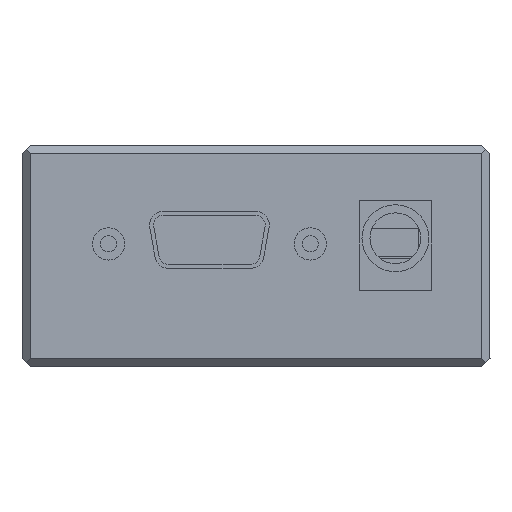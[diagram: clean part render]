
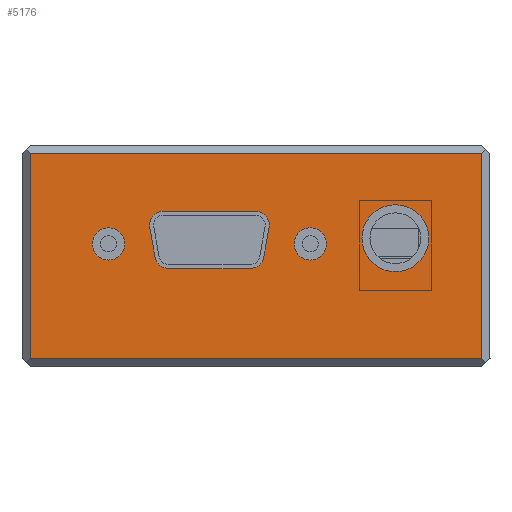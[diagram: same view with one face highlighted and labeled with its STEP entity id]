
A CAD part, left-side view. The second image highlights one B-rep face of the part: STEP entity #5176.
In plain terms, the highlighted planar face has unit normal (-1, 0, 0).
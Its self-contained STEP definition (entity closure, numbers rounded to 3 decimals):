
#138=CIRCLE('',#5546,2.);
#139=CIRCLE('',#5547,1.7);
#140=CIRCLE('',#5548,1.7);
#141=CIRCLE('',#5549,1.7);
#142=CIRCLE('',#5550,1.7);
#143=CIRCLE('',#5551,2.);
#144=CIRCLE('',#5552,4.15);
#226=FACE_BOUND('',#762,.T.);
#227=FACE_BOUND('',#763,.T.);
#228=FACE_BOUND('',#764,.T.);
#229=FACE_BOUND('',#765,.T.);
#429=FACE_OUTER_BOUND('',#761,.T.);
#761=EDGE_LOOP('',(#4200,#4201,#4202,#4203));
#762=EDGE_LOOP('',(#4204));
#763=EDGE_LOOP('',(#4205,#4206,#4207,#4208,#4209,#4210,#4211,#4212));
#764=EDGE_LOOP('',(#4213));
#765=EDGE_LOOP('',(#4214));
#1227=LINE('',#7895,#1840);
#1234=LINE('',#7908,#1847);
#1243=LINE('',#7926,#1856);
#1250=LINE('',#7939,#1863);
#1302=LINE('',#8080,#1915);
#1303=LINE('',#8084,#1916);
#1304=LINE('',#8088,#1917);
#1305=LINE('',#8091,#1918);
#1840=VECTOR('',#6462,10.);
#1847=VECTOR('',#6471,10.);
#1856=VECTOR('',#6486,10.);
#1863=VECTOR('',#6497,10.);
#1915=VECTOR('',#6597,10.);
#1916=VECTOR('',#6600,10.);
#1917=VECTOR('',#6603,10.);
#1918=VECTOR('',#6606,10.);
#2373=VERTEX_POINT('',#7892);
#2374=VERTEX_POINT('',#7894);
#2379=VERTEX_POINT('',#7906);
#2385=VERTEX_POINT('',#7924);
#2451=VERTEX_POINT('',#8074);
#2452=VERTEX_POINT('',#8076);
#2453=VERTEX_POINT('',#8077);
#2454=VERTEX_POINT('',#8079);
#2455=VERTEX_POINT('',#8081);
#2456=VERTEX_POINT('',#8083);
#2457=VERTEX_POINT('',#8085);
#2458=VERTEX_POINT('',#8087);
#2459=VERTEX_POINT('',#8089);
#2460=VERTEX_POINT('',#8092);
#2461=VERTEX_POINT('',#8094);
#2979=EDGE_CURVE('',#2373,#2374,#1227,.T.);
#2986=EDGE_CURVE('',#2379,#2373,#1234,.T.);
#2995=EDGE_CURVE('',#2385,#2379,#1243,.T.);
#3002=EDGE_CURVE('',#2374,#2385,#1250,.T.);
#3069=EDGE_CURVE('',#2451,#2451,#138,.F.);
#3070=EDGE_CURVE('',#2452,#2453,#139,.F.);
#3071=EDGE_CURVE('',#2453,#2454,#1302,.F.);
#3072=EDGE_CURVE('',#2454,#2455,#140,.F.);
#3073=EDGE_CURVE('',#2455,#2456,#1303,.F.);
#3074=EDGE_CURVE('',#2456,#2457,#141,.F.);
#3075=EDGE_CURVE('',#2457,#2458,#1304,.F.);
#3076=EDGE_CURVE('',#2458,#2459,#142,.F.);
#3077=EDGE_CURVE('',#2459,#2452,#1305,.F.);
#3078=EDGE_CURVE('',#2460,#2460,#143,.F.);
#3079=EDGE_CURVE('',#2461,#2461,#144,.F.);
#4200=ORIENTED_EDGE('',*,*,#2995,.F.);
#4201=ORIENTED_EDGE('',*,*,#3002,.F.);
#4202=ORIENTED_EDGE('',*,*,#2979,.F.);
#4203=ORIENTED_EDGE('',*,*,#2986,.F.);
#4204=ORIENTED_EDGE('',*,*,#3069,.T.);
#4205=ORIENTED_EDGE('',*,*,#3070,.T.);
#4206=ORIENTED_EDGE('',*,*,#3071,.T.);
#4207=ORIENTED_EDGE('',*,*,#3072,.T.);
#4208=ORIENTED_EDGE('',*,*,#3073,.T.);
#4209=ORIENTED_EDGE('',*,*,#3074,.T.);
#4210=ORIENTED_EDGE('',*,*,#3075,.T.);
#4211=ORIENTED_EDGE('',*,*,#3076,.T.);
#4212=ORIENTED_EDGE('',*,*,#3077,.T.);
#4213=ORIENTED_EDGE('',*,*,#3078,.T.);
#4214=ORIENTED_EDGE('',*,*,#3079,.F.);
#4888=PLANE('',#5545);
#5176=ADVANCED_FACE('',(#429,#226,#227,#228,#229),#4888,.T.);
#5545=AXIS2_PLACEMENT_3D('',#8073,#6591,#6592);
#5546=AXIS2_PLACEMENT_3D('',#8075,#6593,#6594);
#5547=AXIS2_PLACEMENT_3D('',#8078,#6595,#6596);
#5548=AXIS2_PLACEMENT_3D('',#8082,#6598,#6599);
#5549=AXIS2_PLACEMENT_3D('',#8086,#6601,#6602);
#5550=AXIS2_PLACEMENT_3D('',#8090,#6604,#6605);
#5551=AXIS2_PLACEMENT_3D('',#8093,#6607,#6608);
#5552=AXIS2_PLACEMENT_3D('',#8095,#6609,#6610);
#6462=DIRECTION('',(0.,1.,0.));
#6471=DIRECTION('',(0.,0.,-1.));
#6486=DIRECTION('',(0.,-1.,0.));
#6497=DIRECTION('',(0.,0.,1.));
#6591=DIRECTION('center_axis',(-1.,0.,0.));
#6592=DIRECTION('ref_axis',(0.,0.,1.));
#6593=DIRECTION('center_axis',(-1.,0.,0.));
#6594=DIRECTION('ref_axis',(0.,-1.,0.));
#6595=DIRECTION('center_axis',(-1.,0.,0.));
#6596=DIRECTION('ref_axis',(0.,0.,1.));
#6597=DIRECTION('',(0.,1.,0.));
#6598=DIRECTION('center_axis',(-1.,0.,0.));
#6599=DIRECTION('ref_axis',(0.,-0.985,-0.175));
#6600=DIRECTION('',(0.,-0.175,0.985));
#6601=DIRECTION('center_axis',(-1.,0.,0.));
#6602=DIRECTION('ref_axis',(0.,0.,-1.));
#6603=DIRECTION('',(0.,-1.,0.));
#6604=DIRECTION('center_axis',(-1.,0.,0.));
#6605=DIRECTION('ref_axis',(0.,0.985,-0.175));
#6606=DIRECTION('',(0.,-0.175,-0.985));
#6607=DIRECTION('center_axis',(-1.,0.,0.));
#6608=DIRECTION('ref_axis',(0.,-1.,0.));
#6609=DIRECTION('center_axis',(1.,0.,0.));
#6610=DIRECTION('ref_axis',(0.,1.,0.));
#7892=CARTESIAN_POINT('',(-43.45,-28.,-8.5));
#7894=CARTESIAN_POINT('',(-43.45,28.,-8.5));
#7895=CARTESIAN_POINT('',(-43.45,0.,-8.5));
#7906=CARTESIAN_POINT('',(-43.45,-28.,17.));
#7908=CARTESIAN_POINT('',(-43.45,-28.,-5.75));
#7924=CARTESIAN_POINT('',(-43.45,28.,17.));
#7926=CARTESIAN_POINT('',(-43.45,28.,17.));
#7939=CARTESIAN_POINT('',(-43.45,28.,5.25));
#8073=CARTESIAN_POINT('Origin',(-43.45,28.,-7.5));
#8074=CARTESIAN_POINT('',(-43.45,-4.725,5.75));
#8075=CARTESIAN_POINT('Origin',(-43.45,-6.725,5.75));
#8076=CARTESIAN_POINT('',(-43.45,13.166,7.802));
#8077=CARTESIAN_POINT('',(-43.45,11.492,9.8));
#8078=CARTESIAN_POINT('Origin',(-43.45,11.492,8.1));
#8079=CARTESIAN_POINT('',(-43.45,0.058,9.8));
#8080=CARTESIAN_POINT('',(-43.45,5.746,9.8));
#8081=CARTESIAN_POINT('',(-43.45,-1.616,7.802));
#8082=CARTESIAN_POINT('Origin',(-43.45,0.058,8.1));
#8083=CARTESIAN_POINT('',(-43.45,-0.957,4.102));
#8084=CARTESIAN_POINT('',(-43.45,-1.522,7.274));
#8085=CARTESIAN_POINT('',(-43.45,0.717,2.7));
#8086=CARTESIAN_POINT('Origin',(-43.45,0.717,4.4));
#8087=CARTESIAN_POINT('',(-43.45,10.833,2.7));
#8088=CARTESIAN_POINT('',(-43.45,0.358,2.7));
#8089=CARTESIAN_POINT('',(-43.45,12.507,4.102));
#8090=CARTESIAN_POINT('Origin',(-43.45,10.833,4.4));
#8091=CARTESIAN_POINT('',(-43.45,12.565,4.427));
#8092=CARTESIAN_POINT('',(-43.45,20.275,5.75));
#8093=CARTESIAN_POINT('Origin',(-43.45,18.275,5.75));
#8094=CARTESIAN_POINT('',(-43.45,-21.425,6.45));
#8095=CARTESIAN_POINT('Origin',(-43.45,-17.275,6.45));
